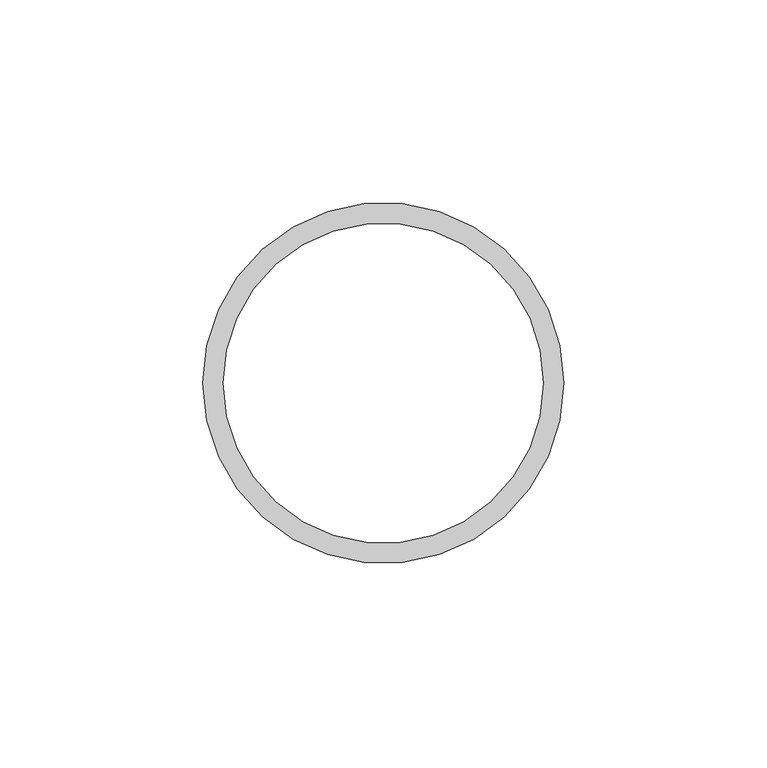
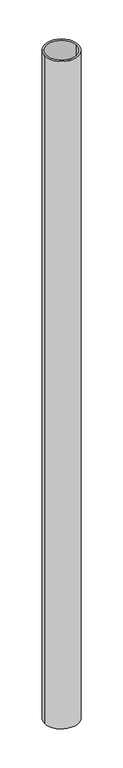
"""IFC4 building model written with IfcOpenShell, lengths in millimetres: column geometry, NLRS_28_SC_TLB_kolom buis_generiek_ISR : ø88.9x5 ."""

from ifc_helpers import new_model, si_unit, point, frame, origin, origin_2d, place, context, project, spatial, circle_curve, trimmed, segment, composite_curve, outline, extrude, source, transform, mapped, element, save


def column_7dd9e76f(model_context):
    return source(origin(), model_context, "Body", "SweptSolid", [
        extrude(outline(composite_curve([segment(trimmed(circle_curve(origin_2d(), 44.45), [point((44.45, 0.0))], [point((-44.45, 0.0))], False, "CARTESIAN"), True, "CONTINUOUS"), segment(trimmed(circle_curve(origin_2d(), 44.45), [point((-44.45, 0.0))], [point((44.45, 0.0))], False, "CARTESIAN"), True, "CONTINUOUS")], self_intersect=False), holes=[composite_curve([segment(trimmed(circle_curve(origin_2d(), 39.45), [point((39.45, 0.0))], [point((-39.45, 0.0))], True, "CARTESIAN"), True, "CONTINUOUS"), segment(trimmed(circle_curve(origin_2d(), 39.45), [point((-39.45, 0.0))], [point((39.45, 0.0))], True, "CARTESIAN"), True, "CONTINUOUS")], self_intersect=False)]), frame((0.0, 0.0, 5050.0), z_axis=(0.0, 0.0, 1.0), x_axis=(1.0, 0.0, 0.0)), (0.0, 0.0, 1.0), 1850.0),
    ])


if __name__ == "__main__":
    model = new_model("IFC4")
    model_context = context("Model", 3, world=origin())
    ifc_project = project(units=[si_unit("LENGTHUNIT", "METRE", prefix="MILLI")], contexts=[model_context])
    site = spatial("IfcSite", under=ifc_project)
    building = spatial("IfcBuilding", under=site)
    placement = place(None, origin())
    column_shape = column_7dd9e76f(model_context)
    element("IfcColumn", 1, ObjectType="NLRS_28_SC_TLB_kolom buis_generiek_ISR : ø88.9x5 ", at=placement, inside=building, context=model_context, shape_type="MappedRepresentation", body=[
        mapped(column_shape, transform((0.0, 0.0, 0.0), x_axis=(1.0, 0.0, 0.0), y_axis=(0.0, 1.0, 0.0), z_axis=(0.0, 0.0, 1.0))),
    ])
    save(model, "model.ifc")
